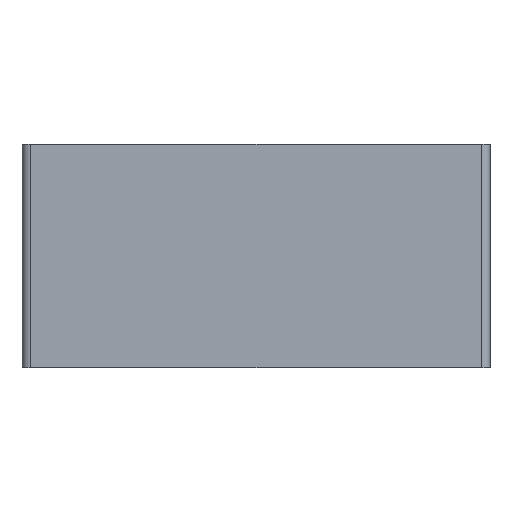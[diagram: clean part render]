
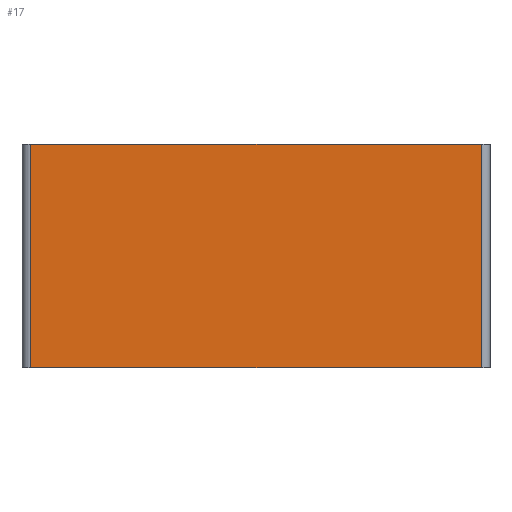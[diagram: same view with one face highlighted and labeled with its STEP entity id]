
A CAD part, left-side view. The second image highlights one B-rep face of the part: STEP entity #17.
In plain terms, the highlighted planar face has unit normal (-1, 0, 0).
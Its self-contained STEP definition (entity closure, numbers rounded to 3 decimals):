
#17 = ADVANCED_FACE('',(#18),#32,.F.);
#18 = FACE_BOUND('',#19,.F.);
#19 = EDGE_LOOP('',(#20,#55,#83,#111));
#20 = ORIENTED_EDGE('',*,*,#21,.F.);
#21 = EDGE_CURVE('',#22,#24,#26,.T.);
#22 = VERTEX_POINT('',#23);
#23 = CARTESIAN_POINT('',(0.,-157.,76.5));
#24 = VERTEX_POINT('',#25);
#25 = CARTESIAN_POINT('',(0.,-3.,76.5));
#26 = SURFACE_CURVE('',#27,(#31,#43),.PCURVE_S1.);
#27 = LINE('',#28,#29);
#28 = CARTESIAN_POINT('',(0.,-160.,76.5));
#29 = VECTOR('',#30,1.);
#30 = DIRECTION('',(0.,1.,0.));
#31 = PCURVE('',#32,#37);
#32 = PLANE('',#33);
#33 = AXIS2_PLACEMENT_3D('',#34,#35,#36);
#34 = CARTESIAN_POINT('',(0.,-160.,0.));
#35 = DIRECTION('',(1.,0.,0.));
#36 = DIRECTION('',(0.,0.,1.));
#37 = DEFINITIONAL_REPRESENTATION('',(#38),#42);
#38 = LINE('',#39,#40);
#39 = CARTESIAN_POINT('',(76.5,0.));
#40 = VECTOR('',#41,1.);
#41 = DIRECTION('',(0.,-1.));
#42 = ( GEOMETRIC_REPRESENTATION_CONTEXT(2) 
PARAMETRIC_REPRESENTATION_CONTEXT() REPRESENTATION_CONTEXT('2D SPACE',''
  ) );
#43 = PCURVE('',#44,#49);
#44 = PLANE('',#45);
#45 = AXIS2_PLACEMENT_3D('',#46,#47,#48);
#46 = CARTESIAN_POINT('',(0.,-160.,76.5));
#47 = DIRECTION('',(0.,0.,1.));
#48 = DIRECTION('',(1.,0.,0.));
#49 = DEFINITIONAL_REPRESENTATION('',(#50),#54);
#50 = LINE('',#51,#52);
#51 = CARTESIAN_POINT('',(0.,0.));
#52 = VECTOR('',#53,1.);
#53 = DIRECTION('',(0.,1.));
#54 = ( GEOMETRIC_REPRESENTATION_CONTEXT(2) 
PARAMETRIC_REPRESENTATION_CONTEXT() REPRESENTATION_CONTEXT('2D SPACE',''
  ) );
#55 = ORIENTED_EDGE('',*,*,#56,.F.);
#56 = EDGE_CURVE('',#57,#22,#59,.T.);
#57 = VERTEX_POINT('',#58);
#58 = CARTESIAN_POINT('',(0.,-157.,0.));
#59 = SURFACE_CURVE('',#60,(#64,#71),.PCURVE_S1.);
#60 = LINE('',#61,#62);
#61 = CARTESIAN_POINT('',(0.,-157.,0.));
#62 = VECTOR('',#63,1.);
#63 = DIRECTION('',(0.,0.,1.));
#64 = PCURVE('',#32,#65);
#65 = DEFINITIONAL_REPRESENTATION('',(#66),#70);
#66 = LINE('',#67,#68);
#67 = CARTESIAN_POINT('',(0.,-3.));
#68 = VECTOR('',#69,1.);
#69 = DIRECTION('',(1.,0.));
#70 = ( GEOMETRIC_REPRESENTATION_CONTEXT(2) 
PARAMETRIC_REPRESENTATION_CONTEXT() REPRESENTATION_CONTEXT('2D SPACE',''
  ) );
#71 = PCURVE('',#72,#77);
#72 = CYLINDRICAL_SURFACE('',#73,3.);
#73 = AXIS2_PLACEMENT_3D('',#74,#75,#76);
#74 = CARTESIAN_POINT('',(3.,-157.,0.));
#75 = DIRECTION('',(0.,0.,1.));
#76 = DIRECTION('',(-1.,-0.,0.));
#77 = DEFINITIONAL_REPRESENTATION('',(#78),#82);
#78 = LINE('',#79,#80);
#79 = CARTESIAN_POINT('',(0.,0.));
#80 = VECTOR('',#81,1.);
#81 = DIRECTION('',(0.,1.));
#82 = ( GEOMETRIC_REPRESENTATION_CONTEXT(2) 
PARAMETRIC_REPRESENTATION_CONTEXT() REPRESENTATION_CONTEXT('2D SPACE',''
  ) );
#83 = ORIENTED_EDGE('',*,*,#84,.T.);
#84 = EDGE_CURVE('',#57,#85,#87,.T.);
#85 = VERTEX_POINT('',#86);
#86 = CARTESIAN_POINT('',(0.,-3.,0.));
#87 = SURFACE_CURVE('',#88,(#92,#99),.PCURVE_S1.);
#88 = LINE('',#89,#90);
#89 = CARTESIAN_POINT('',(0.,-160.,0.));
#90 = VECTOR('',#91,1.);
#91 = DIRECTION('',(0.,1.,0.));
#92 = PCURVE('',#32,#93);
#93 = DEFINITIONAL_REPRESENTATION('',(#94),#98);
#94 = LINE('',#95,#96);
#95 = CARTESIAN_POINT('',(0.,0.));
#96 = VECTOR('',#97,1.);
#97 = DIRECTION('',(0.,-1.));
#98 = ( GEOMETRIC_REPRESENTATION_CONTEXT(2) 
PARAMETRIC_REPRESENTATION_CONTEXT() REPRESENTATION_CONTEXT('2D SPACE',''
  ) );
#99 = PCURVE('',#100,#105);
#100 = PLANE('',#101);
#101 = AXIS2_PLACEMENT_3D('',#102,#103,#104);
#102 = CARTESIAN_POINT('',(0.,-160.,0.));
#103 = DIRECTION('',(0.,0.,1.));
#104 = DIRECTION('',(1.,0.,0.));
#105 = DEFINITIONAL_REPRESENTATION('',(#106),#110);
#106 = LINE('',#107,#108);
#107 = CARTESIAN_POINT('',(0.,0.));
#108 = VECTOR('',#109,1.);
#109 = DIRECTION('',(0.,1.));
#110 = ( GEOMETRIC_REPRESENTATION_CONTEXT(2) 
PARAMETRIC_REPRESENTATION_CONTEXT() REPRESENTATION_CONTEXT('2D SPACE',''
  ) );
#111 = ORIENTED_EDGE('',*,*,#112,.T.);
#112 = EDGE_CURVE('',#85,#24,#113,.T.);
#113 = SURFACE_CURVE('',#114,(#118,#125),.PCURVE_S1.);
#114 = LINE('',#115,#116);
#115 = CARTESIAN_POINT('',(0.,-3.,0.));
#116 = VECTOR('',#117,1.);
#117 = DIRECTION('',(0.,0.,1.));
#118 = PCURVE('',#32,#119);
#119 = DEFINITIONAL_REPRESENTATION('',(#120),#124);
#120 = LINE('',#121,#122);
#121 = CARTESIAN_POINT('',(0.,-157.));
#122 = VECTOR('',#123,1.);
#123 = DIRECTION('',(1.,0.));
#124 = ( GEOMETRIC_REPRESENTATION_CONTEXT(2) 
PARAMETRIC_REPRESENTATION_CONTEXT() REPRESENTATION_CONTEXT('2D SPACE',''
  ) );
#125 = PCURVE('',#126,#131);
#126 = CYLINDRICAL_SURFACE('',#127,3.);
#127 = AXIS2_PLACEMENT_3D('',#128,#129,#130);
#128 = CARTESIAN_POINT('',(3.,-3.,0.));
#129 = DIRECTION('',(0.,0.,1.));
#130 = DIRECTION('',(-1.,-0.,0.));
#131 = DEFINITIONAL_REPRESENTATION('',(#132),#136);
#132 = LINE('',#133,#134);
#133 = CARTESIAN_POINT('',(-0.,0.));
#134 = VECTOR('',#135,1.);
#135 = DIRECTION('',(-0.,1.));
#136 = ( GEOMETRIC_REPRESENTATION_CONTEXT(2) 
PARAMETRIC_REPRESENTATION_CONTEXT() REPRESENTATION_CONTEXT('2D SPACE',''
  ) );
